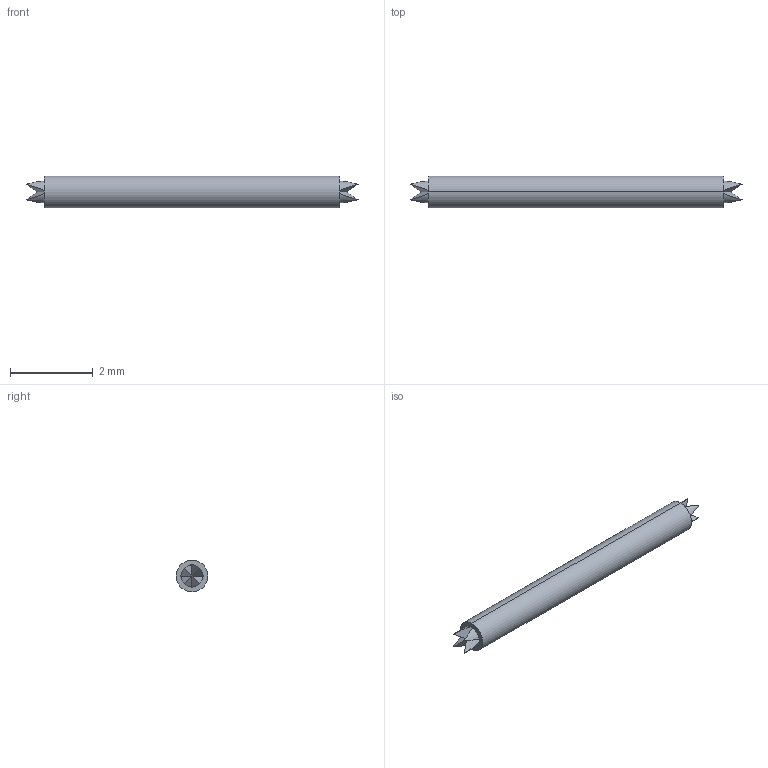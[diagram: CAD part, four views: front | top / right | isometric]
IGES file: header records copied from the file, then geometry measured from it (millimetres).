
Start section: SolidWorks IGES file using analytic representation for surfaces
Global section: file name: Z:\probe solid model mockups\Solidworks models\IGES Files\CSP1-1.27 IGES files\CSP1-1.27LL RECD.IGS; native system: SolidWorks 2006 by SolidWorks Corporation; preprocessor: SolidWorks 2006 by SolidWorks Corporation; author: tsakatani; date: 080108.155536; units: inch
Bounding box: 8 x 0.76 x 0.76 mm (x, y, z)
Surface area: 19.4 mm2 (no closed solid volume)
Topology: 0 solids, 0 shells, 38 faces, 232 edges, 232 vertices
Faces by surface type: revolution 20, bspline 18
